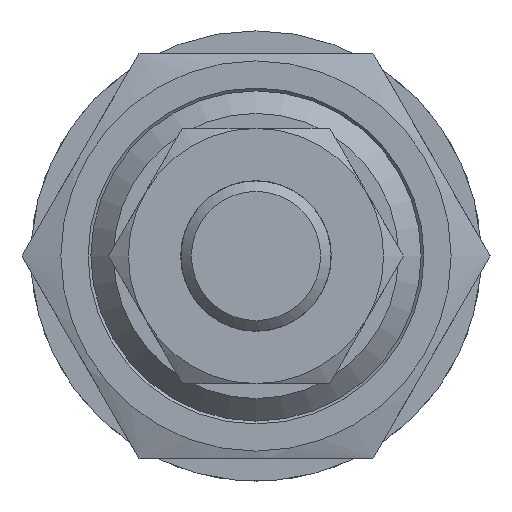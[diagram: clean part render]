
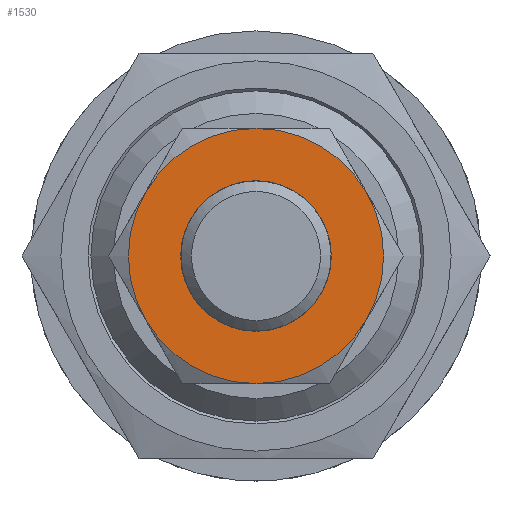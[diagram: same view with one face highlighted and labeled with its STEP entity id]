
A CAD part, front view. The second image highlights one B-rep face of the part: STEP entity #1530.
In plain terms, the highlighted planar face has unit normal (0, -1, 0) as drawn and (1, 0, 0) by its records, which use the part's own axes.
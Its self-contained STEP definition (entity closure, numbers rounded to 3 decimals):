
#236=PLANE('',#2590);
#526=ORIENTED_EDGE('',*,*,#731,.T.);
#527=ORIENTED_EDGE('',*,*,#729,.T.);
#528=ORIENTED_EDGE('',*,*,#726,.T.);
#529=ORIENTED_EDGE('',*,*,#725,.T.);
#530=ORIENTED_EDGE('',*,*,#727,.T.);
#531=ORIENTED_EDGE('',*,*,#728,.T.);
#532=ORIENTED_EDGE('',*,*,#730,.T.);
#725=EDGE_CURVE('',#863,#870,#979,.T.);
#726=EDGE_CURVE('',#860,#863,#980,.T.);
#727=EDGE_CURVE('',#870,#868,#981,.T.);
#728=EDGE_CURVE('',#868,#865,#982,.T.);
#729=EDGE_CURVE('',#855,#860,#983,.T.);
#730=EDGE_CURVE('',#865,#855,#984,.T.);
#731=EDGE_CURVE('',#871,#871,#985,.F.);
#855=VERTEX_POINT('',#3422);
#860=VERTEX_POINT('',#3442);
#863=VERTEX_POINT('',#3459);
#865=VERTEX_POINT('',#3477);
#868=VERTEX_POINT('',#3494);
#870=VERTEX_POINT('',#3510);
#871=VERTEX_POINT('',#3534);
#979=CIRCLE('',#2573,8.5);
#980=CIRCLE('',#2575,8.5);
#981=CIRCLE('',#2577,8.5);
#982=CIRCLE('',#2579,8.5);
#983=CIRCLE('',#2581,8.5);
#984=CIRCLE('',#2583,8.5);
#985=CIRCLE('',#2591,5.016);
#1167=EDGE_LOOP('',(#526));
#1168=EDGE_LOOP('',(#527,#528,#529,#530,#531,#532));
#1368=FACE_BOUND('',#1167,.T.);
#1369=FACE_BOUND('',#1168,.T.);
#1530=ADVANCED_FACE('',(#1368,#1369),#236,.T.);
#2573=AXIS2_PLACEMENT_3D('',#3515,#3013,#3014);
#2575=AXIS2_PLACEMENT_3D('',#3517,#3017,#3018);
#2577=AXIS2_PLACEMENT_3D('',#3519,#3021,#3022);
#2579=AXIS2_PLACEMENT_3D('',#3521,#3025,#3026);
#2581=AXIS2_PLACEMENT_3D('',#3523,#3029,#3030);
#2583=AXIS2_PLACEMENT_3D('',#3525,#3033,#3034);
#2590=AXIS2_PLACEMENT_3D('',#3532,#3047,#3048);
#2591=AXIS2_PLACEMENT_3D('',#3533,#3049,#3050);
#3013=DIRECTION('',(1.,0.,0.));
#3014=DIRECTION('',(0.,1.,0.));
#3017=DIRECTION('',(1.,0.,0.));
#3018=DIRECTION('',(0.,1.,0.));
#3021=DIRECTION('',(1.,0.,0.));
#3022=DIRECTION('',(0.,1.,0.));
#3025=DIRECTION('',(1.,0.,0.));
#3026=DIRECTION('',(0.,1.,0.));
#3029=DIRECTION('',(1.,0.,0.));
#3030=DIRECTION('',(0.,1.,0.));
#3033=DIRECTION('',(1.,0.,0.));
#3034=DIRECTION('',(0.,1.,0.));
#3047=DIRECTION('',(1.,0.,0.));
#3048=DIRECTION('',(0.,0.,-1.));
#3049=DIRECTION('',(1.,0.,0.));
#3050=DIRECTION('',(0.,0.,-1.));
#3422=CARTESIAN_POINT('',(6.,-7.361,-4.25));
#3442=CARTESIAN_POINT('',(6.,0.,-8.5));
#3459=CARTESIAN_POINT('',(6.,7.361,-4.25));
#3477=CARTESIAN_POINT('',(6.,-7.361,4.25));
#3494=CARTESIAN_POINT('',(6.,0.,8.5));
#3510=CARTESIAN_POINT('',(6.,7.361,4.25));
#3515=CARTESIAN_POINT('',(6.,0.,0.));
#3517=CARTESIAN_POINT('',(6.,0.,0.));
#3519=CARTESIAN_POINT('',(6.,0.,0.));
#3521=CARTESIAN_POINT('',(6.,0.,0.));
#3523=CARTESIAN_POINT('',(6.,0.,0.));
#3525=CARTESIAN_POINT('',(6.,0.,0.));
#3532=CARTESIAN_POINT('',(6.,0.,0.));
#3533=CARTESIAN_POINT('',(6.,0.,0.));
#3534=CARTESIAN_POINT('',(6.,0.,-5.016));
